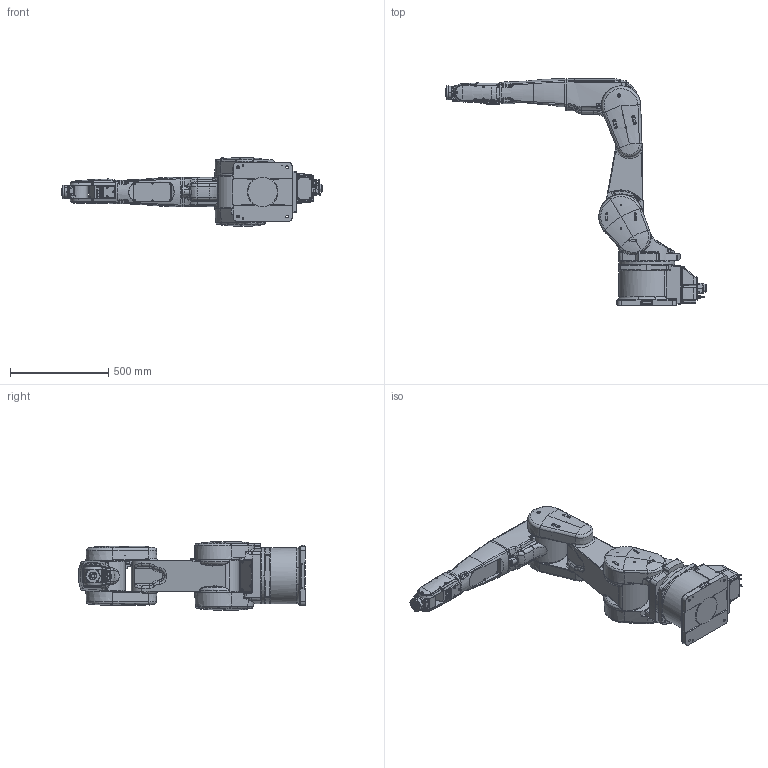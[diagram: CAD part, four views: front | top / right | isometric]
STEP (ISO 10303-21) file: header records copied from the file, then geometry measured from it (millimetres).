
FILE_DESCRIPTION((''),'2;1');
FILE_NAME('RV-7FRLL-MC_ASM','2017-05-25T',('PC32302'),(''),'PRO/ENGINEER BY PARAMETRIC TECHNOLOGY CORPORATION, 2014310','PRO/ENGINEER BY PARAMETRIC TECHNOLOGY CORPORATION, 2014310','');
FILE_SCHEMA(('CONFIG_CONTROL_DESIGN'));
Length unit declared in the file: millimetre
Products named in the file (9): RV-7FRLL-MC_SKELTON; RV-13FR-MC_BASE_01; RV-13F_SHOULDER_02; RV-13FL_NO1ARM_03; RV-13F_ELBOW_04; RV-7FLL_NO2ARM; RV-4F-MC_WRIST_05; RV-4F-MC_HAND_FLANGE_06; RV-7FRLL-MC_ASM
Assembly tree (8 placements, depth 2):
  RV-7FRLL-MC_ASM
    RV-7FRLL-MC_SKELTON
    RV-13FR-MC_BASE_01
    RV-13F_SHOULDER_02
    RV-13FL_NO1ARM_03
    RV-13F_ELBOW_04
    RV-7FLL_NO2ARM
    RV-4F-MC_WRIST_05
    RV-4F-MC_HAND_FLANGE_06
Bounding box: 1322.5 x 1152.11 x 348.47 mm (x, y, z)
Volume: 72875721.2 mm3; surface area: 2474323.3 mm2
Topology: 7 solids, 10 shells, 3753 faces, 9338 edges, 5835 vertices
Faces by surface type: cylinder 1356, plane 1010, bspline 739, torus 307, cone 287, sphere 46, revolution 5, extrusion 3
Entity records: 261320 total; most frequent: CARTESIAN_POINT 178074, ORIENTED_EDGE 18624, DIRECTION 15608, EDGE_CURVE 9312, AXIS2_PLACEMENT_3D 6227, VERTEX_POINT 5835, EDGE_LOOP 4049, FACE_OUTER_BOUND 3753
